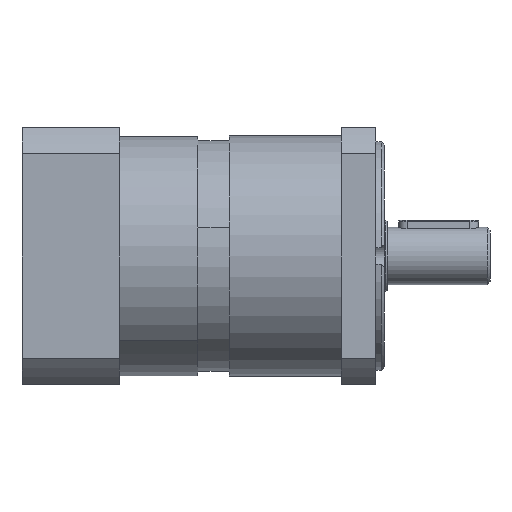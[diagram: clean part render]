
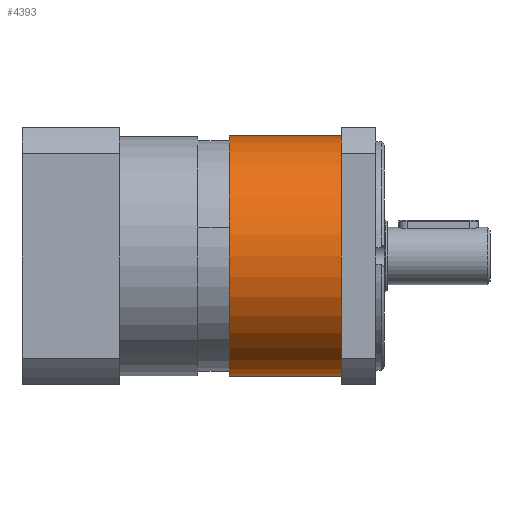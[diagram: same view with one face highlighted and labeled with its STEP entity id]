
A CAD part, left-side view. The second image highlights one B-rep face of the part: STEP entity #4393.
In plain terms, the highlighted cylindrical face has radius 42 mm (diameter 84 mm), a partial arc.
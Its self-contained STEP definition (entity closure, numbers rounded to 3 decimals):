
#533 = DIRECTION ( 'NONE',  ( 0., 1., 0. ) ) ;
#582 = DIRECTION ( 'NONE',  ( 0., 1., 0. ) ) ;
#627 = DIRECTION ( 'NONE',  ( 0., 0., 1. ) ) ;
#650 = CARTESIAN_POINT ( 'NONE',  ( 0., -77.7, 0. ) ) ;
#879 = EDGE_CURVE ( 'NONE', #1539, #4433, #7398, .T. ) ;
#1107 = AXIS2_PLACEMENT_3D ( 'NONE', #650, #5298, #1344 ) ;
#1343 = FACE_OUTER_BOUND ( 'NONE', #4678, .T. ) ;
#1344 = DIRECTION ( 'NONE',  ( 0., 0., 1. ) ) ;
#1422 = VECTOR ( 'NONE', #5817, 1000. ) ;
#1438 = ORIENTED_EDGE ( 'NONE', *, *, #6199, .F. ) ;
#1539 = VERTEX_POINT ( 'NONE', #6598 ) ;
#1793 = CIRCLE ( 'NONE', #2859, 42. ) ;
#1885 = AXIS2_PLACEMENT_3D ( 'NONE', #8397, #533, #627 ) ;
#1961 = CIRCLE ( 'NONE', #1107, 42. ) ;
#2026 = CARTESIAN_POINT ( 'NONE',  ( 0., -77.7, 42. ) ) ;
#2344 = ORIENTED_EDGE ( 'NONE', *, *, #3127, .F. ) ;
#2439 = VECTOR ( 'NONE', #582, 1000. ) ;
#2855 = CARTESIAN_POINT ( 'NONE',  ( 0., -38.5, 0. ) ) ;
#2859 = AXIS2_PLACEMENT_3D ( 'NONE', #2855, #7367, #3527 ) ;
#2951 = EDGE_CURVE ( 'NONE', #3507, #1539, #1961, .T. ) ;
#2959 = CARTESIAN_POINT ( 'NONE',  ( 0., -38.5, -42. ) ) ;
#3055 = ORIENTED_EDGE ( 'NONE', *, *, #2951, .T. ) ;
#3127 = EDGE_CURVE ( 'NONE', #6541, #4433, #1793, .T. ) ;
#3177 = LINE ( 'NONE', #8293, #1422 ) ;
#3507 = VERTEX_POINT ( 'NONE', #6530 ) ;
#3527 = DIRECTION ( 'NONE',  ( 0., 0., 1. ) ) ;
#4393 = ADVANCED_FACE ( 'NONE', ( #1343 ), #5798, .T. ) ;
#4433 = VERTEX_POINT ( 'NONE', #5283 ) ;
#4678 = EDGE_LOOP ( 'NONE', ( #1438, #3055, #6279, #2344 ) ) ;
#5283 = CARTESIAN_POINT ( 'NONE',  ( 0., -38.5, 42. ) ) ;
#5298 = DIRECTION ( 'NONE',  ( 0., 1., 0. ) ) ;
#5798 = CYLINDRICAL_SURFACE ( 'NONE', #1885, 42. ) ;
#5817 = DIRECTION ( 'NONE',  ( 0., 1., 0. ) ) ;
#6199 = EDGE_CURVE ( 'NONE', #3507, #6541, #3177, .T. ) ;
#6279 = ORIENTED_EDGE ( 'NONE', *, *, #879, .T. ) ;
#6530 = CARTESIAN_POINT ( 'NONE',  ( 0., -77.7, -42. ) ) ;
#6541 = VERTEX_POINT ( 'NONE', #2959 ) ;
#6598 = CARTESIAN_POINT ( 'NONE',  ( 0., -77.7, 42. ) ) ;
#7367 = DIRECTION ( 'NONE',  ( 0., 1., 0. ) ) ;
#7398 = LINE ( 'NONE', #2026, #2439 ) ;
#8293 = CARTESIAN_POINT ( 'NONE',  ( 0., -77.7, -42. ) ) ;
#8397 = CARTESIAN_POINT ( 'NONE',  ( 0., -77.7, 0. ) ) ;
